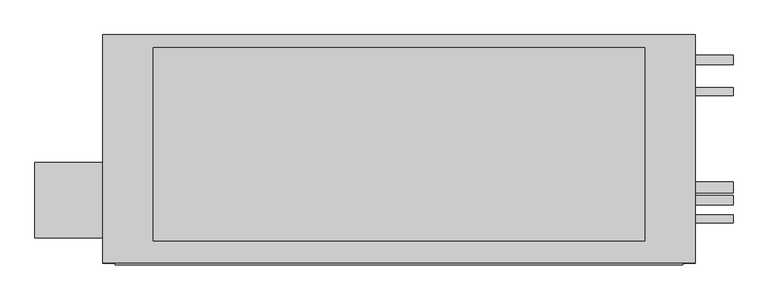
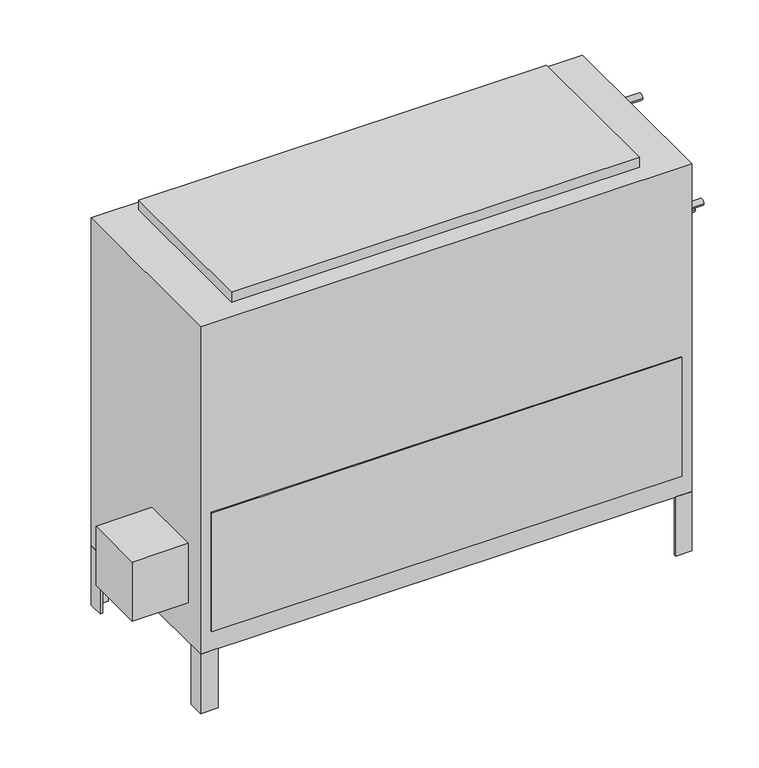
"""IFC4 building model written with IfcOpenShell, lengths in millimetres: proxy geometry, Concealed_High_Capacity_Vertical_Fan_Coil_Unit_-_42DDA_-_CARRIER_-_4-Pipe_RH_2022 : Size 16 - 277v/60Hz/1Ph - 4/2 Coil."""

from ifc_helpers import new_model, si_unit, point, frame, frame_2d, origin, origin_with_axes, place, context, project, spatial, polyline, circle_curve, trimmed, segment, composite_curve, outline, extrude, source, transform, mapped, element, save


def mechanical_equipment_11728c12(model_context):
    return source(origin(), model_context, "Body", "SweptSolid", [
        extrude(outline(polyline([(-581.025, -417.5125), (-581.025, -265.1125), (-444.5, -265.1125), (-444.5, -417.5125), (-581.025, -417.5125)])), frame((0.0, 0.0, 101.6), z_axis=(0.0, 0.0, 1.0), x_axis=(1.0, 0.0, 0.0)), (0.0, 0.0, 1.0), 152.4),
        extrude(outline(polyline([(749.3, -46.0375), (742.95, -46.0375), (742.95, -14.2875), (711.2, -14.2875), (711.2, -7.9375), (749.3, -7.9375), (749.3, -46.0375)])), frame((0.0, 0.0, -152.4), z_axis=(0.0, 0.0, 1.0), x_axis=(1.0, 0.0, 0.0)), (0.0, 0.0, 1.0), 152.4),
        extrude(outline(polyline([(-406.4, -7.9375), (-406.4, -14.2875), (-438.15, -14.2875), (-438.15, -46.0375), (-444.5, -46.0375), (-444.5, -7.9375), (-406.4, -7.9375)])), frame((0.0, 0.0, -152.4), z_axis=(0.0, 0.0, 1.0), x_axis=(1.0, 0.0, 0.0)), (0.0, 0.0, 1.0), 152.4),
        extrude(outline(polyline([(711.2, -468.3125), (711.2, -461.9625), (742.95, -461.9625), (742.95, -430.2125), (749.3, -430.2125), (749.3, -468.3125), (711.2, -468.3125)])), frame((0.0, 0.0, -152.4), z_axis=(0.0, 0.0, 1.0), x_axis=(1.0, 0.0, 0.0)), (0.0, 0.0, 1.0), 152.4),
        extrude(outline(polyline([(-444.5, -428.1199163), (-438.15, -428.1199163), (-438.15, -461.9625), (-401.0318533, -461.9625), (-401.0318533, -468.3125), (-444.5, -468.3125), (-444.5, -428.1199163)])), frame((0.0, 0.0, -152.4), z_axis=(0.0, 0.0, 1.0), x_axis=(1.0, 0.0, 0.0)), (0.0, 0.0, 1.0), 152.4),
        extrude(outline(polyline([(647.7, -33.3375), (647.7, -423.8625), (-342.9, -423.8625), (-342.9, -33.3375), (647.7, -33.3375)])), frame((0.0, 0.0, 841.375), z_axis=(0.0, 0.0, 1.0), x_axis=(1.0, 0.0, 0.0)), (0.0, 0.0, 1.0), 25.4),
        extrude(outline(polyline([(723.9, -471.4875), (-419.1, -471.4875), (-419.1, -468.3125), (723.9, -468.3125), (723.9, -471.4875)])), frame((0.0, 0.0, 50.8), z_axis=(0.0, 0.0, 1.0), x_axis=(1.0, 0.0, 0.0)), (0.0, 0.0, 1.0), 304.8),
        extrude(outline(composite_curve([segment(trimmed(circle_curve(frame_2d((-122.2375, 777.875)), 7.9375), [point((-114.3, 777.875))], [point((-130.175, 777.875))], False, "CARTESIAN"), True, "CONTINUOUS"), segment(trimmed(circle_curve(frame_2d((-122.2375, 777.875)), 7.9375), [point((-130.175, 777.875))], [point((-114.3, 777.875))], False, "CARTESIAN"), True, "CONTINUOUS")], self_intersect=False)), frame((749.3, 0.0, 0.0), z_axis=(1.0, 0.0, 0.0), x_axis=(0.0, 1.0, 0.0)), (0.0, 0.0, 1.0), 76.2),
        extrude(outline(composite_curve([segment(trimmed(circle_curve(frame_2d((-379.4125, 663.575)), 7.9375), [point((-371.475, 663.575))], [point((-387.35, 663.575))], False, "CARTESIAN"), True, "CONTINUOUS"), segment(trimmed(circle_curve(frame_2d((-379.4125, 663.575)), 7.9375), [point((-387.35, 663.575))], [point((-371.475, 663.575))], False, "CARTESIAN"), True, "CONTINUOUS")], self_intersect=False)), frame((749.3, 0.0, 0.0), z_axis=(1.0, 0.0, 0.0), x_axis=(0.0, 1.0, 0.0)), (0.0, 0.0, 1.0), 76.2),
        extrude(outline(composite_curve([segment(trimmed(circle_curve(frame_2d((-58.7375, 727.075)), 9.525), [point((-49.2125, 727.075))], [point((-68.2625, 727.075))], False, "CARTESIAN"), True, "CONTINUOUS"), segment(trimmed(circle_curve(frame_2d((-58.7375, 727.075)), 9.525), [point((-68.2625, 727.075))], [point((-49.2125, 727.075))], False, "CARTESIAN"), True, "CONTINUOUS")], self_intersect=False)), frame((749.3, 0.0, 0.0), z_axis=(1.0, 0.0, 0.0), x_axis=(0.0, 1.0, 0.0)), (0.0, 0.0, 1.0), 76.2),
        extrude(outline(composite_curve([segment(trimmed(circle_curve(frame_2d((-341.3125, 625.475)), 9.525), [point((-331.7875, 625.475))], [point((-350.8375, 625.475))], False, "CARTESIAN"), True, "CONTINUOUS"), segment(trimmed(circle_curve(frame_2d((-341.3125, 625.475)), 9.525), [point((-350.8375, 625.475))], [point((-331.7875, 625.475))], False, "CARTESIAN"), True, "CONTINUOUS")], self_intersect=False)), frame((749.3, 0.0, 0.0), z_axis=(1.0, 0.0, 0.0), x_axis=(0.0, 1.0, 0.0)), (0.0, 0.0, 1.0), 76.2),
        extrude(outline(composite_curve([segment(trimmed(circle_curve(frame_2d((-315.9125, 536.575)), 11.1125), [point((-304.8, 536.575))], [point((-327.025, 536.575))], False, "CARTESIAN"), True, "CONTINUOUS"), segment(trimmed(circle_curve(frame_2d((-315.9125, 536.575)), 11.1125), [point((-327.025, 536.575))], [point((-304.8, 536.575))], False, "CARTESIAN"), True, "CONTINUOUS")], self_intersect=False)), frame((749.3, 0.0, 0.0), z_axis=(1.0, 0.0, 0.0), x_axis=(0.0, 1.0, 0.0)), (0.0, 0.0, 1.0), 76.2),
        extrude(outline(polyline([(749.3, -7.9375), (749.3, -468.3125), (-444.5, -468.3125), (-444.5, -7.9375), (749.3, -7.9375)])), origin_with_axes(), (0.0, 0.0, 1.0), 841.375),
    ])


if __name__ == "__main__":
    model = new_model("IFC4")
    model_context = context("Model", 3, world=origin())
    ifc_project = project(units=[si_unit("LENGTHUNIT", "METRE", prefix="MILLI")], contexts=[model_context])
    site = spatial("IfcSite", under=ifc_project)
    building = spatial("IfcBuilding", under=site)
    placement = place(None, origin())
    mechanical_equipment_shape = mechanical_equipment_11728c12(model_context)
    element("IfcBuildingElementProxy", 1, Name="Concealed_High_Capacity_Vertical_Fan_Coil_Unit_-_42DDA_-_CARRIER_-_4-Pipe_RH_2022 : Size 16 - 277v/60Hz/1Ph - 4/2 Coil", ObjectType="Concealed_High_Capacity_Vertical_Fan_Coil_Unit_-_42DDA_-_CARRIER_-_4-Pipe_RH_2022 : Size 16 - 277v/60Hz/1Ph - 4/2 Coil", at=placement, inside=building, context=model_context, shape_type="MappedRepresentation", body=[
        mapped(mechanical_equipment_shape, transform((0.0, 0.0, 0.0), x_axis=(1.0, 0.0, 0.0), y_axis=(0.0, 1.0, 0.0), z_axis=(0.0, 0.0, 1.0))),
    ])
    save(model, "model.ifc")
